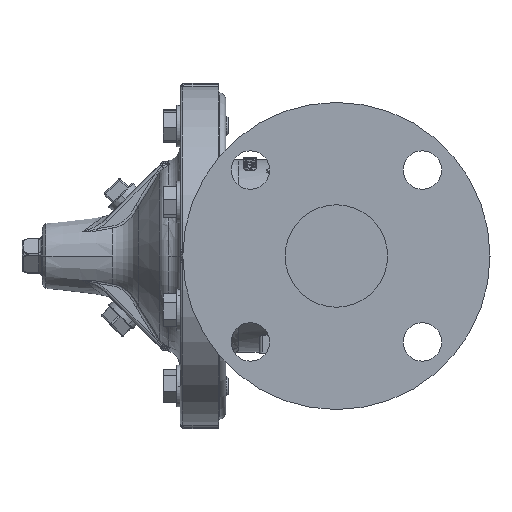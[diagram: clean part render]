
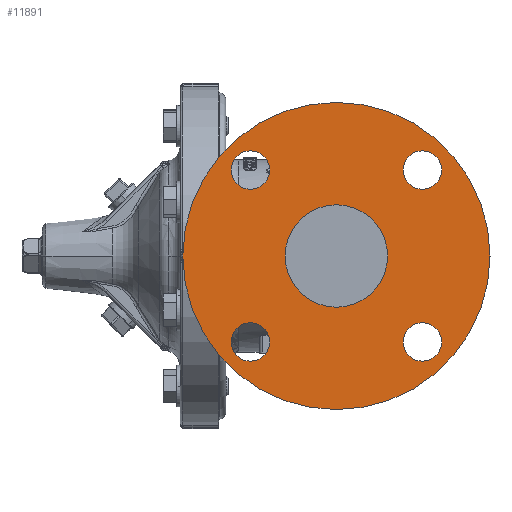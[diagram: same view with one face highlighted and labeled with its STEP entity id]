
A CAD part, left-side view. The second image highlights one B-rep face of the part: STEP entity #11891.
In plain terms, the highlighted planar face has unit normal (-1, 0, 0).
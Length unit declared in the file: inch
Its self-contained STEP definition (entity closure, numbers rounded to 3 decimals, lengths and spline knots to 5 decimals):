
#554 = VERTEX_POINT ( 'NONE', #25430 ) ;
#1416 = EDGE_CURVE ( 'NONE', #49340, #10383, #20435, .T. ) ;
#1538 = ORIENTED_EDGE ( 'NONE', *, *, #25006, .T. ) ;
#2603 = DIRECTION ( 'NONE',  ( -1., 0., 0. ) ) ;
#2617 = CARTESIAN_POINT ( 'NONE',  ( -4.69, -1., 0. ) ) ;
#2683 = CARTESIAN_POINT ( 'NONE',  ( -4.69, 0., -1. ) ) ;
#2942 = ORIENTED_EDGE ( 'NONE', *, *, #21428, .T. ) ;
#3019 = AXIS2_PLACEMENT_3D ( 'NONE', #12133, #12084, #12078 ) ;
#3357 = DIRECTION ( 'NONE',  ( 1., 0., 0. ) ) ;
#3629 = CARTESIAN_POINT ( 'NONE',  ( -4.69, 1.67938, -1.67938 ) ) ;
#3888 = EDGE_CURVE ( 'NONE', #10383, #49340, #17844, .T. ) ;
#5215 = ORIENTED_EDGE ( 'NONE', *, *, #6097, .T. ) ;
#5404 = FACE_OUTER_BOUND ( 'NONE', #14697, .T. ) ;
#5566 = DIRECTION ( 'NONE',  ( -1., 0., 0. ) ) ;
#5611 = CIRCLE ( 'NONE', #35400, 0.375 ) ;
#6097 = EDGE_CURVE ( 'NONE', #25923, #32372, #29884, .T. ) ;
#7234 = ORIENTED_EDGE ( 'NONE', *, *, #23782, .T. ) ;
#7235 = ORIENTED_EDGE ( 'NONE', *, *, #37563, .T. ) ;
#7648 = EDGE_CURVE ( 'NONE', #27086, #21204, #17024, .T. ) ;
#7702 = DIRECTION ( 'NONE',  ( 0., 0., -1. ) ) ;
#7795 = DIRECTION ( 'NONE',  ( 1., 0., 0. ) ) ;
#7851 = AXIS2_PLACEMENT_3D ( 'NONE', #36156, #11688, #40290 ) ;
#7870 = DIRECTION ( 'NONE',  ( -1., 0., 0. ) ) ;
#8360 = ORIENTED_EDGE ( 'NONE', *, *, #7648, .F. ) ;
#8486 = DIRECTION ( 'NONE',  ( 0., 1., 0. ) ) ;
#8543 = DIRECTION ( 'NONE',  ( 1., 0., 0. ) ) ;
#8616 = CARTESIAN_POINT ( 'NONE',  ( -4.69, 1.67938, 1.67938 ) ) ;
#8741 = CARTESIAN_POINT ( 'NONE',  ( -4.69, 1.67938, 2.05438 ) ) ;
#8915 = CIRCLE ( 'NONE', #41985, 0.375 ) ;
#10106 = VERTEX_POINT ( 'NONE', #26686 ) ;
#10362 = VERTEX_POINT ( 'NONE', #13501 ) ;
#10383 = VERTEX_POINT ( 'NONE', #42104 ) ;
#10728 = PLANE ( 'NONE',  #13614 ) ;
#10847 = EDGE_CURVE ( 'NONE', #21204, #27086, #51356, .T. ) ;
#10876 = CARTESIAN_POINT ( 'NONE',  ( -4.69, 0., 0. ) ) ;
#11688 = DIRECTION ( 'NONE',  ( 1., 0., 0. ) ) ;
#11891 = ADVANCED_FACE ( 'NONE', ( #26985, #48714, #16158, #5404, #47469, #36607 ), #10728, .T. ) ;
#11963 = DIRECTION ( 'NONE',  ( 1., 0., 0. ) ) ;
#12078 = DIRECTION ( 'NONE',  ( 0., 1., 0. ) ) ;
#12084 = DIRECTION ( 'NONE',  ( 1., 0., 0. ) ) ;
#12133 = CARTESIAN_POINT ( 'NONE',  ( -4.69, 1.67938, 1.67938 ) ) ;
#12171 = AXIS2_PLACEMENT_3D ( 'NONE', #3629, #32087, #7702 ) ;
#12200 = EDGE_LOOP ( 'NONE', ( #7234, #1538 ) ) ;
#12434 = AXIS2_PLACEMENT_3D ( 'NONE', #10876, #39479, #14976 ) ;
#13501 = CARTESIAN_POINT ( 'NONE',  ( -4.69, -1.67938, 1.30438 ) ) ;
#13614 = AXIS2_PLACEMENT_3D ( 'NONE', #2617, #39324, #14823 ) ;
#14145 = ORIENTED_EDGE ( 'NONE', *, *, #10847, .F. ) ;
#14697 = EDGE_LOOP ( 'NONE', ( #45031, #2942 ) ) ;
#14823 = DIRECTION ( 'NONE',  ( 0., 0., -1. ) ) ;
#14976 = DIRECTION ( 'NONE',  ( 0., 0., 1. ) ) ;
#15059 = CIRCLE ( 'NONE', #44849, 0.375 ) ;
#15561 = CIRCLE ( 'NONE', #7851, 0.375 ) ;
#16158 = FACE_BOUND ( 'NONE', #32663, .T. ) ;
#16199 = CARTESIAN_POINT ( 'NONE',  ( -4.69, 0., 3. ) ) ;
#17024 = CIRCLE ( 'NONE', #23116, 1. ) ;
#17337 = CARTESIAN_POINT ( 'NONE',  ( -4.69, 0., 1. ) ) ;
#17399 = CIRCLE ( 'NONE', #20306, 3. ) ;
#17844 = CIRCLE ( 'NONE', #32302, 0.375 ) ;
#19883 = CIRCLE ( 'NONE', #12171, 0.375 ) ;
#20306 = AXIS2_PLACEMENT_3D ( 'NONE', #32267, #7870, #36380 ) ;
#20435 = CIRCLE ( 'NONE', #3019, 0.375 ) ;
#21204 = VERTEX_POINT ( 'NONE', #17337 ) ;
#21405 = ORIENTED_EDGE ( 'NONE', *, *, #51494, .T. ) ;
#21428 = EDGE_CURVE ( 'NONE', #10106, #38449, #42742, .T. ) ;
#21633 = CARTESIAN_POINT ( 'NONE',  ( -4.69, -1.67938, 1.67938 ) ) ;
#23116 = AXIS2_PLACEMENT_3D ( 'NONE', #29904, #5566, #34025 ) ;
#23782 = EDGE_CURVE ( 'NONE', #554, #40722, #5611, .T. ) ;
#25006 = EDGE_CURVE ( 'NONE', #40722, #554, #19883, .T. ) ;
#25054 = EDGE_CURVE ( 'NONE', #38449, #10106, #17399, .T. ) ;
#25430 = CARTESIAN_POINT ( 'NONE',  ( -4.69, 1.67938, -1.30438 ) ) ;
#25725 = DIRECTION ( 'NONE',  ( 0., 0., 1. ) ) ;
#25923 = VERTEX_POINT ( 'NONE', #44625 ) ;
#26365 = CARTESIAN_POINT ( 'NONE',  ( -4.69, 1.67938, -2.05438 ) ) ;
#26686 = CARTESIAN_POINT ( 'NONE',  ( -4.69, 0., -3. ) ) ;
#26909 = CARTESIAN_POINT ( 'NONE',  ( -4.69, 0., 0. ) ) ;
#26985 = FACE_BOUND ( 'NONE', #42202, .T. ) ;
#27086 = VERTEX_POINT ( 'NONE', #2683 ) ;
#27666 = CARTESIAN_POINT ( 'NONE',  ( -4.69, 1.67938, -1.67938 ) ) ;
#29884 = CIRCLE ( 'NONE', #44194, 0.375 ) ;
#29904 = CARTESIAN_POINT ( 'NONE',  ( -4.69, 0., 0. ) ) ;
#30791 = AXIS2_PLACEMENT_3D ( 'NONE', #26909, #2603, #31065 ) ;
#30964 = CARTESIAN_POINT ( 'NONE',  ( -4.69, -1.67938, -2.05438 ) ) ;
#31065 = DIRECTION ( 'NONE',  ( 0., 0., 1. ) ) ;
#31822 = DIRECTION ( 'NONE',  ( 0., 0., -1. ) ) ;
#32087 = DIRECTION ( 'NONE',  ( 1., 0., 0. ) ) ;
#32191 = CARTESIAN_POINT ( 'NONE',  ( -4.69, -1.67938, -1.67938 ) ) ;
#32267 = CARTESIAN_POINT ( 'NONE',  ( -4.69, 0., 0. ) ) ;
#32302 = AXIS2_PLACEMENT_3D ( 'NONE', #8616, #8543, #8486 ) ;
#32372 = VERTEX_POINT ( 'NONE', #30964 ) ;
#32573 = EDGE_LOOP ( 'NONE', ( #5215, #47646 ) ) ;
#32663 = EDGE_LOOP ( 'NONE', ( #14145, #8360 ) ) ;
#34025 = DIRECTION ( 'NONE',  ( 0., 0., 1. ) ) ;
#35400 = AXIS2_PLACEMENT_3D ( 'NONE', #27666, #3357, #31822 ) ;
#36156 = CARTESIAN_POINT ( 'NONE',  ( -4.69, -1.67938, 1.67938 ) ) ;
#36306 = DIRECTION ( 'NONE',  ( 0., -1., 0. ) ) ;
#36380 = DIRECTION ( 'NONE',  ( 0., 0., 1. ) ) ;
#36411 = CARTESIAN_POINT ( 'NONE',  ( -4.69, -1.67938, -1.67938 ) ) ;
#36607 = FACE_BOUND ( 'NONE', #32573, .T. ) ;
#37563 = EDGE_CURVE ( 'NONE', #10362, #43490, #15561, .T. ) ;
#37784 = ORIENTED_EDGE ( 'NONE', *, *, #3888, .T. ) ;
#38449 = VERTEX_POINT ( 'NONE', #16199 ) ;
#39324 = DIRECTION ( 'NONE',  ( -1., 0., 0. ) ) ;
#39479 = DIRECTION ( 'NONE',  ( -1., 0., 0. ) ) ;
#39961 = ORIENTED_EDGE ( 'NONE', *, *, #1416, .T. ) ;
#40290 = DIRECTION ( 'NONE',  ( 0., 0., 1. ) ) ;
#40544 = DIRECTION ( 'NONE',  ( 0., -1., 0. ) ) ;
#40722 = VERTEX_POINT ( 'NONE', #26365 ) ;
#41617 = CARTESIAN_POINT ( 'NONE',  ( -4.69, -1.67938, 2.05438 ) ) ;
#41981 = EDGE_CURVE ( 'NONE', #32372, #25923, #15059, .T. ) ;
#41985 = AXIS2_PLACEMENT_3D ( 'NONE', #21633, #50257, #25725 ) ;
#42104 = CARTESIAN_POINT ( 'NONE',  ( -4.69, 1.67938, 1.30438 ) ) ;
#42202 = EDGE_LOOP ( 'NONE', ( #21405, #7235 ) ) ;
#42742 = CIRCLE ( 'NONE', #12434, 3. ) ;
#43490 = VERTEX_POINT ( 'NONE', #41617 ) ;
#44194 = AXIS2_PLACEMENT_3D ( 'NONE', #36411, #11963, #40544 ) ;
#44625 = CARTESIAN_POINT ( 'NONE',  ( -4.69, -1.67938, -1.30438 ) ) ;
#44849 = AXIS2_PLACEMENT_3D ( 'NONE', #32191, #7795, #36306 ) ;
#45031 = ORIENTED_EDGE ( 'NONE', *, *, #25054, .T. ) ;
#47469 = FACE_BOUND ( 'NONE', #50512, .T. ) ;
#47646 = ORIENTED_EDGE ( 'NONE', *, *, #41981, .T. ) ;
#48714 = FACE_BOUND ( 'NONE', #12200, .T. ) ;
#49340 = VERTEX_POINT ( 'NONE', #8741 ) ;
#50257 = DIRECTION ( 'NONE',  ( 1., 0., 0. ) ) ;
#50512 = EDGE_LOOP ( 'NONE', ( #39961, #37784 ) ) ;
#51356 = CIRCLE ( 'NONE', #30791, 1. ) ;
#51494 = EDGE_CURVE ( 'NONE', #43490, #10362, #8915, .T. ) ;
